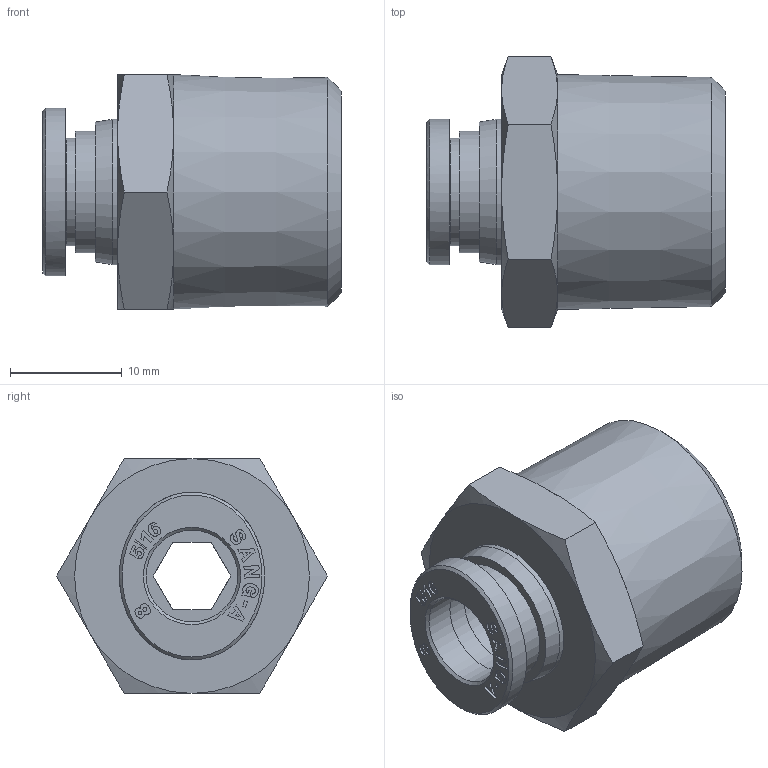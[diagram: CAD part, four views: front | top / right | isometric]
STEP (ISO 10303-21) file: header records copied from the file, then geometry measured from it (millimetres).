
FILE_DESCRIPTION((''),'2;1');
FILE_NAME('C:\Users\user0117\Desktop\김진일\G-FITTING INCH\5-16\PDF\G-FITTING INCH (STEP)\GPC 5_16-R04.stp','2020-04-21T16:53:31',('user0117'),(''),'Autodesk Inventor 2013','Autodesk Inventor 2013','');
FILE_SCHEMA(('AUTOMOTIVE_DESIGN { 1 0 10303 214 1 1 1 1 }'));
Length unit declared in the file: millimetre
Products named in the file (5): GPC 5_16-R04; GPC BODY 0804; G-COLLAR 5-16C; COLLAR G08C; SLEEVE G08
Assembly tree (4 placements, depth 3):
  GPC 5_16-R04
    GPC BODY 0804
    G-COLLAR 5-16C
      COLLAR G08C
      SLEEVE G08
Bounding box: 26.7 x 24.25 x 21 mm (x, y, z)
Volume: 5939.2 mm3; surface area: 3172.5 mm2
Topology: 3 solids, 3 shells, 406 faces, 1133 edges, 752 vertices
Faces by surface type: plane 354, bspline 20, cone 19, cylinder 13
Full cylindrical faces by diameter (mm): 8.2 x3, 9.6 x1, 10.9 x1, 13 x1, 13.5 x1
Entity records: 13160 total; most frequent: CARTESIAN_POINT 2766, ORIENTED_EDGE 2226, DIRECTION 1945, EDGE_CURVE 1113, VECTOR 993, LINE 993, VERTEX_POINT 747, AXIS2_PLACEMENT_3D 476
